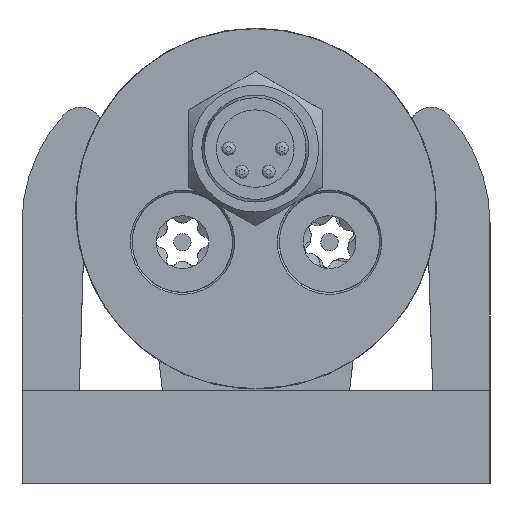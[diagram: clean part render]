
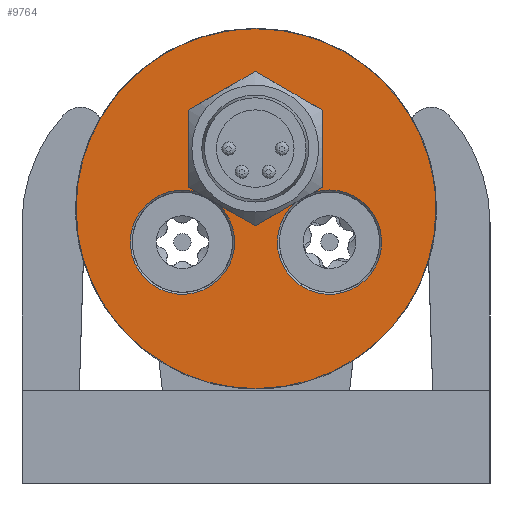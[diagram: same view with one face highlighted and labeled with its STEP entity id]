
A CAD part, front view. The second image highlights one B-rep face of the part: STEP entity #9764.
In plain terms, the highlighted planar face has unit normal (0, -1, 0).
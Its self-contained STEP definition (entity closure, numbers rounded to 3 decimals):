
#39=FACE_BOUND('',#1975,.T.);
#336=CIRCLE('',#10414,3.9);
#337=CIRCLE('',#10415,3.9);
#338=CIRCLE('',#10416,3.9);
#339=CIRCLE('',#10417,3.9);
#1016=B_SPLINE_CURVE_WITH_KNOTS('',3,(#15854,#15855,#15856,#15857,#15858,
#15859,#15860,#15861,#15862,#15863,#15864,#15865,#15866,#15867,#15868,#15869,
#15870,#15871),.UNSPECIFIED.,.F.,.F.,(4,2,2,2,2,2,2,2,4),(0.,0.619,
1.376,2.208,2.895,3.582,4.413,
5.171,5.789),.UNSPECIFIED.);
#1017=B_SPLINE_CURVE_WITH_KNOTS('',3,(#15873,#15874,#15875,#15876,#15877,
#15878,#15879,#15880,#15881,#15882),.UNSPECIFIED.,.F.,.F.,(4,2,2,2,4),(0.,
0.568,1.154,1.74,2.308),
 .UNSPECIFIED.);
#1018=B_SPLINE_CURVE_WITH_KNOTS('',3,(#15883,#15884,#15885,#15886,#15887,
#15888,#15889,#15890,#15891,#15892),.UNSPECIFIED.,.F.,.F.,(4,2,2,2,4),(0.,
0.568,1.154,1.74,2.308),
 .UNSPECIFIED.);
#1427=FACE_OUTER_BOUND('',#1974,.T.);
#1974=EDGE_LOOP('',(#6574,#6575,#6576));
#1975=EDGE_LOOP('',(#6577,#6578,#6579,#6580,#6581,#6582,#6583,#6584,#6585,
#6586,#6587,#6588));
#2572=LINE('',#15485,#3126);
#2575=LINE('',#15491,#3129);
#2577=LINE('',#15494,#3131);
#2579=LINE('',#15498,#3133);
#2580=LINE('',#15499,#3134);
#2582=LINE('',#15505,#3136);
#2583=LINE('',#15508,#3137);
#2585=LINE('',#15511,#3139);
#3126=VECTOR('',#11622,10.);
#3129=VECTOR('',#11627,10.);
#3131=VECTOR('',#11629,10.);
#3133=VECTOR('',#11633,10.);
#3134=VECTOR('',#11634,10.);
#3136=VECTOR('',#11642,10.);
#3137=VECTOR('',#11645,10.);
#3139=VECTOR('',#11649,10.);
#3705=VERTEX_POINT('',#15449);
#3706=VERTEX_POINT('',#15450);
#3714=VERTEX_POINT('',#15482);
#3715=VERTEX_POINT('',#15484);
#3716=VERTEX_POINT('',#15488);
#3717=VERTEX_POINT('',#15490);
#3718=VERTEX_POINT('',#15492);
#3719=VERTEX_POINT('',#15496);
#3720=VERTEX_POINT('',#15503);
#3721=VERTEX_POINT('',#15507);
#3803=VERTEX_POINT('',#15852);
#3804=VERTEX_POINT('',#15853);
#3805=VERTEX_POINT('',#15872);
#3806=VERTEX_POINT('',#15893);
#3807=VERTEX_POINT('',#15896);
#4750=EDGE_CURVE('',#3715,#3714,#2572,.T.);
#4753=EDGE_CURVE('',#3717,#3716,#2575,.T.);
#4755=EDGE_CURVE('',#3714,#3718,#2577,.T.);
#4757=EDGE_CURVE('',#3705,#3719,#2579,.T.);
#4758=EDGE_CURVE('',#3716,#3706,#2580,.T.);
#4761=EDGE_CURVE('',#3719,#3720,#2582,.T.);
#4762=EDGE_CURVE('',#3721,#3715,#2583,.T.);
#4764=EDGE_CURVE('',#3720,#3721,#2585,.T.);
#4857=EDGE_CURVE('',#3803,#3804,#1016,.T.);
#4858=EDGE_CURVE('',#3805,#3803,#1017,.T.);
#4859=EDGE_CURVE('',#3804,#3805,#1018,.T.);
#4860=EDGE_CURVE('',#3718,#3806,#336,.T.);
#4861=EDGE_CURVE('',#3806,#3717,#337,.T.);
#4862=EDGE_CURVE('',#3706,#3807,#338,.T.);
#4863=EDGE_CURVE('',#3807,#3705,#339,.T.);
#6574=ORIENTED_EDGE('',*,*,#4857,.F.);
#6575=ORIENTED_EDGE('',*,*,#4858,.F.);
#6576=ORIENTED_EDGE('',*,*,#4859,.F.);
#6577=ORIENTED_EDGE('',*,*,#4755,.T.);
#6578=ORIENTED_EDGE('',*,*,#4860,.T.);
#6579=ORIENTED_EDGE('',*,*,#4861,.T.);
#6580=ORIENTED_EDGE('',*,*,#4753,.T.);
#6581=ORIENTED_EDGE('',*,*,#4758,.T.);
#6582=ORIENTED_EDGE('',*,*,#4862,.T.);
#6583=ORIENTED_EDGE('',*,*,#4863,.T.);
#6584=ORIENTED_EDGE('',*,*,#4757,.T.);
#6585=ORIENTED_EDGE('',*,*,#4761,.T.);
#6586=ORIENTED_EDGE('',*,*,#4764,.T.);
#6587=ORIENTED_EDGE('',*,*,#4762,.T.);
#6588=ORIENTED_EDGE('',*,*,#4750,.T.);
#9043=PLANE('',#10413);
#9764=ADVANCED_FACE('',(#1427,#39),#9043,.T.);
#10413=AXIS2_PLACEMENT_3D('',#15851,#11829,#11830);
#10414=AXIS2_PLACEMENT_3D('',#15894,#11831,#11832);
#10415=AXIS2_PLACEMENT_3D('',#15895,#11833,#11834);
#10416=AXIS2_PLACEMENT_3D('',#15897,#11835,#11836);
#10417=AXIS2_PLACEMENT_3D('',#15898,#11837,#11838);
#11622=DIRECTION('',(0.,0.,-1.));
#11627=DIRECTION('',(-0.866,0.,-0.5));
#11629=DIRECTION('',(-0.866,0.,-0.5));
#11633=DIRECTION('',(-0.866,0.,0.5));
#11634=DIRECTION('',(-0.866,0.,0.5));
#11642=DIRECTION('',(0.,0.,1.));
#11645=DIRECTION('',(0.866,0.,-0.5));
#11649=DIRECTION('',(0.866,0.,0.5));
#11829=DIRECTION('center_axis',(0.,-1.,0.));
#11830=DIRECTION('ref_axis',(-1.,0.,0.));
#11831=DIRECTION('center_axis',(0.,1.,0.));
#11832=DIRECTION('ref_axis',(1.,0.,0.));
#11833=DIRECTION('center_axis',(0.,1.,0.));
#11834=DIRECTION('ref_axis',(1.,0.,0.));
#11835=DIRECTION('center_axis',(0.,1.,0.));
#11836=DIRECTION('ref_axis',(1.,0.,0.));
#11837=DIRECTION('center_axis',(0.,1.,0.));
#11838=DIRECTION('ref_axis',(1.,0.,0.));
#15449=CARTESIAN_POINT('',(-110.78,-28.458,5.818));
#15450=CARTESIAN_POINT('',(-109.125,-28.458,4.862));
#15482=CARTESIAN_POINT('',(-101.398,-28.458,6.174));
#15484=CARTESIAN_POINT('',(-101.398,-28.458,11.948));
#15485=CARTESIAN_POINT('',(-101.398,-28.458,12.795));
#15488=CARTESIAN_POINT('',(-106.398,-28.458,3.287));
#15490=CARTESIAN_POINT('',(-103.372,-28.458,5.034));
#15491=CARTESIAN_POINT('',(-97.317,-28.458,8.53));
#15492=CARTESIAN_POINT('',(-102.15,-28.458,5.74));
#15494=CARTESIAN_POINT('',(-97.317,-28.458,8.53));
#15496=CARTESIAN_POINT('',(-111.398,-28.458,6.174));
#15498=CARTESIAN_POINT('',(-106.8,-28.458,3.52));
#15499=CARTESIAN_POINT('',(-106.8,-28.458,3.52));
#15503=CARTESIAN_POINT('',(-111.398,-28.458,11.948));
#15505=CARTESIAN_POINT('',(-111.398,-28.458,15.681));
#15507=CARTESIAN_POINT('',(-106.398,-28.458,14.834));
#15508=CARTESIAN_POINT('',(-99.3,-28.458,10.737));
#15511=CARTESIAN_POINT('',(-99.817,-28.458,18.634));
#15851=CARTESIAN_POINT('Origin',(-91.493,-28.458,19.415));
#15852=CARTESIAN_POINT('',(-92.887,-28.458,4.565));
#15853=CARTESIAN_POINT('',(-119.799,-28.458,4.565));
#15854=CARTESIAN_POINT('Ctrl Pts',(-92.887,-28.458,
4.565));
#15855=CARTESIAN_POINT('Ctrl Pts',(-92.887,-28.458,
2.503));
#15856=CARTESIAN_POINT('Ctrl Pts',(-93.361,-28.458,
0.756));
#15857=CARTESIAN_POINT('Ctrl Pts',(-94.564,-28.458,
-2.171));
#15858=CARTESIAN_POINT('Ctrl Pts',(-95.532,-28.458,-3.634));
#15859=CARTESIAN_POINT('Ctrl Pts',(-98.101,-28.458,
-6.242));
#15860=CARTESIAN_POINT('Ctrl Pts',(-99.627,-28.458,
-7.214));
#15861=CARTESIAN_POINT('Ctrl Pts',(-102.446,-28.458,
-8.388));
#15862=CARTESIAN_POINT('Ctrl Pts',(-104.205,-28.458,
-8.891));
#15863=CARTESIAN_POINT('Ctrl Pts',(-108.481,-28.458,
-8.891));
#15864=CARTESIAN_POINT('Ctrl Pts',(-110.24,-28.458,
-8.388));
#15865=CARTESIAN_POINT('Ctrl Pts',(-113.059,-28.458,
-7.214));
#15866=CARTESIAN_POINT('Ctrl Pts',(-114.585,-28.458,
-6.242));
#15867=CARTESIAN_POINT('Ctrl Pts',(-117.154,-28.458,
-3.634));
#15868=CARTESIAN_POINT('Ctrl Pts',(-118.122,-28.458,
-2.171));
#15869=CARTESIAN_POINT('Ctrl Pts',(-119.325,-28.458,
0.756));
#15870=CARTESIAN_POINT('Ctrl Pts',(-119.799,-28.458,
2.503));
#15871=CARTESIAN_POINT('Ctrl Pts',(-119.799,-28.458,
4.565));
#15872=CARTESIAN_POINT('',(-106.343,-28.458,18.021));
#15873=CARTESIAN_POINT('Ctrl Pts',(-106.343,-28.458,
18.021));
#15874=CARTESIAN_POINT('Ctrl Pts',(-104.45,-28.458,
18.021));
#15875=CARTESIAN_POINT('Ctrl Pts',(-102.683,-28.458,
17.623));
#15876=CARTESIAN_POINT('Ctrl Pts',(-99.523,-28.458,
16.295));
#15877=CARTESIAN_POINT('Ctrl Pts',(-98.066,-28.458,
15.317));
#15878=CARTESIAN_POINT('Ctrl Pts',(-95.591,-28.458,
12.843));
#15879=CARTESIAN_POINT('Ctrl Pts',(-94.613,-28.458,
11.386));
#15880=CARTESIAN_POINT('Ctrl Pts',(-93.285,-28.458,8.225));
#15881=CARTESIAN_POINT('Ctrl Pts',(-92.887,-28.458,
6.458));
#15882=CARTESIAN_POINT('Ctrl Pts',(-92.887,-28.458,
4.565));
#15883=CARTESIAN_POINT('Ctrl Pts',(-119.799,-28.458,
4.565));
#15884=CARTESIAN_POINT('Ctrl Pts',(-119.799,-28.458,
6.458));
#15885=CARTESIAN_POINT('Ctrl Pts',(-119.401,-28.458,
8.225));
#15886=CARTESIAN_POINT('Ctrl Pts',(-118.073,-28.458,
11.386));
#15887=CARTESIAN_POINT('Ctrl Pts',(-117.095,-28.458,
12.843));
#15888=CARTESIAN_POINT('Ctrl Pts',(-114.62,-28.458,
15.317));
#15889=CARTESIAN_POINT('Ctrl Pts',(-113.163,-28.458,
16.295));
#15890=CARTESIAN_POINT('Ctrl Pts',(-110.003,-28.458,
17.623));
#15891=CARTESIAN_POINT('Ctrl Pts',(-108.236,-28.458,
18.021));
#15892=CARTESIAN_POINT('Ctrl Pts',(-106.343,-28.458,
18.021));
#15893=CARTESIAN_POINT('',(-97.669,-28.458,-0.201));
#15894=CARTESIAN_POINT('Origin',(-100.843,-28.458,2.065));
#15895=CARTESIAN_POINT('Origin',(-100.843,-28.458,2.065));
#15896=CARTESIAN_POINT('',(-108.669,-28.458,-0.201));
#15897=CARTESIAN_POINT('Origin',(-111.843,-28.458,2.065));
#15898=CARTESIAN_POINT('Origin',(-111.843,-28.458,2.065));
